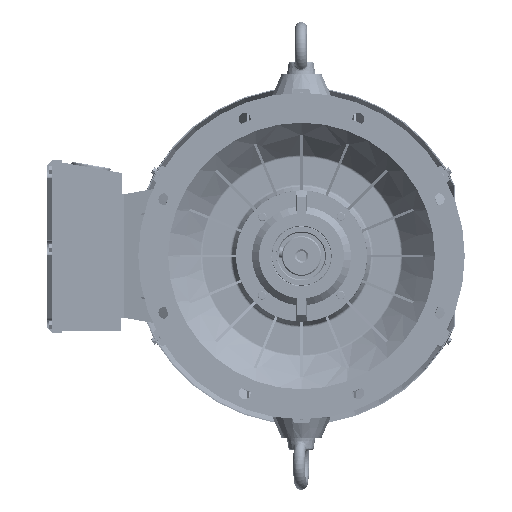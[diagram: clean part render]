
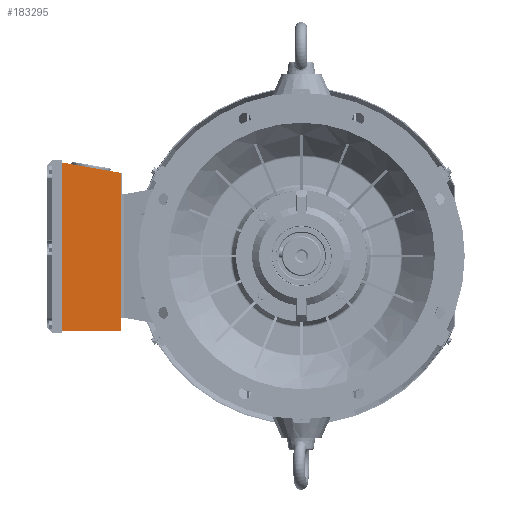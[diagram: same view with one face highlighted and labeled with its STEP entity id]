
A CAD part, left-side view. The second image highlights one B-rep face of the part: STEP entity #183295.
In plain terms, the highlighted planar face has unit normal (-1, 0, 0) as drawn and (0, 0, 1) by its records, which use the part's own axes.
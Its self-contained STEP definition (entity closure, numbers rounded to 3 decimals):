
#317 = VERTEX_POINT ( 'NONE', #52073 ) ;
#4225 = CARTESIAN_POINT ( 'NONE',  ( 26., 122., 140. ) ) ;
#6548 = VECTOR ( 'NONE', #120832, 1000. ) ;
#8597 = VECTOR ( 'NONE', #173179, 1000. ) ;
#11457 = VERTEX_POINT ( 'NONE', #96600 ) ;
#11662 = CARTESIAN_POINT ( 'NONE',  ( 0., 3., 140. ) ) ;
#34087 = AXIS2_PLACEMENT_3D ( 'NONE', #4225, #221129, #267057 ) ;
#43063 = FACE_OUTER_BOUND ( 'NONE', #145363, .T. ) ;
#48515 = VECTOR ( 'NONE', #91207, 1000. ) ;
#48929 = EDGE_CURVE ( 'NONE', #168134, #11457, #137139, .T. ) ;
#52073 = CARTESIAN_POINT ( 'NONE',  ( 340.012, 122., 140. ) ) ;
#52859 = EDGE_CURVE ( 'NONE', #317, #266046, #174221, .T. ) ;
#86991 = LINE ( 'NONE', #128673, #8597 ) ;
#91207 = DIRECTION ( 'NONE',  ( 1., 0., 0. ) ) ;
#96600 = CARTESIAN_POINT ( 'NONE',  ( 319.029, 3., 140. ) ) ;
#109597 = CARTESIAN_POINT ( 'NONE',  ( 0., 122., 140. ) ) ;
#111882 = ORIENTED_EDGE ( 'NONE', *, *, #52859, .T. ) ;
#120832 = DIRECTION ( 'NONE',  ( 0., -1., 0. ) ) ;
#128673 = CARTESIAN_POINT ( 'NONE',  ( 318.5, 0., 140. ) ) ;
#137139 = LINE ( 'NONE', #141389, #48515 ) ;
#141389 = CARTESIAN_POINT ( 'NONE',  ( 0., 3., 140. ) ) ;
#145363 = EDGE_LOOP ( 'NONE', ( #168922, #179768, #111882, #190558 ) ) ;
#156520 = PLANE ( 'NONE',  #34087 ) ;
#167750 = CARTESIAN_POINT ( 'NONE',  ( 0., 3., 140. ) ) ;
#168134 = VERTEX_POINT ( 'NONE', #167750 ) ;
#168922 = ORIENTED_EDGE ( 'NONE', *, *, #48929, .T. ) ;
#173179 = DIRECTION ( 'NONE',  ( 0.174, 0.985, 0. ) ) ;
#174221 = LINE ( 'NONE', #109597, #209855 ) ;
#179768 = ORIENTED_EDGE ( 'NONE', *, *, #279704, .T. ) ;
#183295 = ADVANCED_FACE ( 'NONE', ( #43063 ), #156520, .T. ) ;
#190558 = ORIENTED_EDGE ( 'NONE', *, *, #259011, .T. ) ;
#209855 = VECTOR ( 'NONE', #279170, 1000. ) ;
#221129 = DIRECTION ( 'NONE',  ( 0., 0., 1. ) ) ;
#242315 = CARTESIAN_POINT ( 'NONE',  ( 0., 122., 140. ) ) ;
#259011 = EDGE_CURVE ( 'NONE', #266046, #168134, #270294, .T. ) ;
#266046 = VERTEX_POINT ( 'NONE', #242315 ) ;
#267057 = DIRECTION ( 'NONE',  ( 1., 0., 0. ) ) ;
#270294 = LINE ( 'NONE', #11662, #6548 ) ;
#279170 = DIRECTION ( 'NONE',  ( -1., 0., 0. ) ) ;
#279704 = EDGE_CURVE ( 'NONE', #11457, #317, #86991, .T. ) ;
